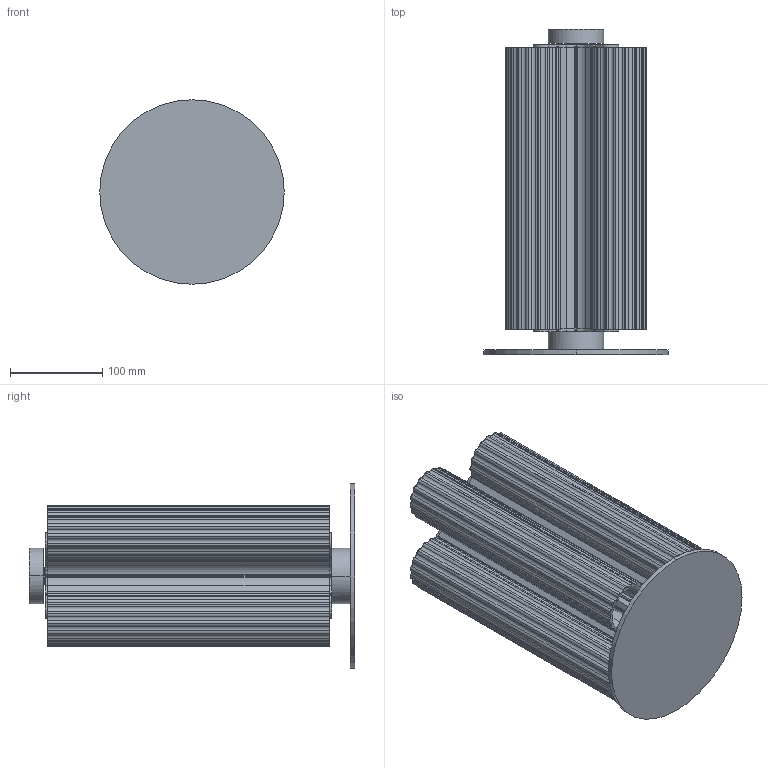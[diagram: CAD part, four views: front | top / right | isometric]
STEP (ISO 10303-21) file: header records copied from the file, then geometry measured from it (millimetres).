
FILE_DESCRIPTION (( 'STEP AP214' ), '1' );
FILE_NAME ('RYST_S1359.STEP', '2026-08-28T07:42:06', ( '' ), ( '' ), 'SwSTEP 2.0', 'SolidWorks 2023', '' );
FILE_SCHEMA (( 'AUTOMOTIVE_DESIGN' ));
Length unit declared in the file: millimetre
Products named in the file (1): RYST_S1359
Bounding box: 200 x 352.72 x 200 mm (x, y, z)
Surface area: 923503.8 mm2 (no closed solid volume)
Topology: 0 solids, 12 shells, 805 faces, 2312 edges, 1537 vertices
Faces by surface type: bspline 516, cylinder 278, plane 11
Entity records: 26547 total; most frequent: CARTESIAN_POINT 9835, ORIENTED_EDGE 4616, EDGE_CURVE 2310, DIRECTION 1970, VERTEX_POINT 1537, B_SPLINE_CURVE_WITH_KNOTS 1089, AXIS2_PLACEMENT_3D 846, EDGE_LOOP 834
